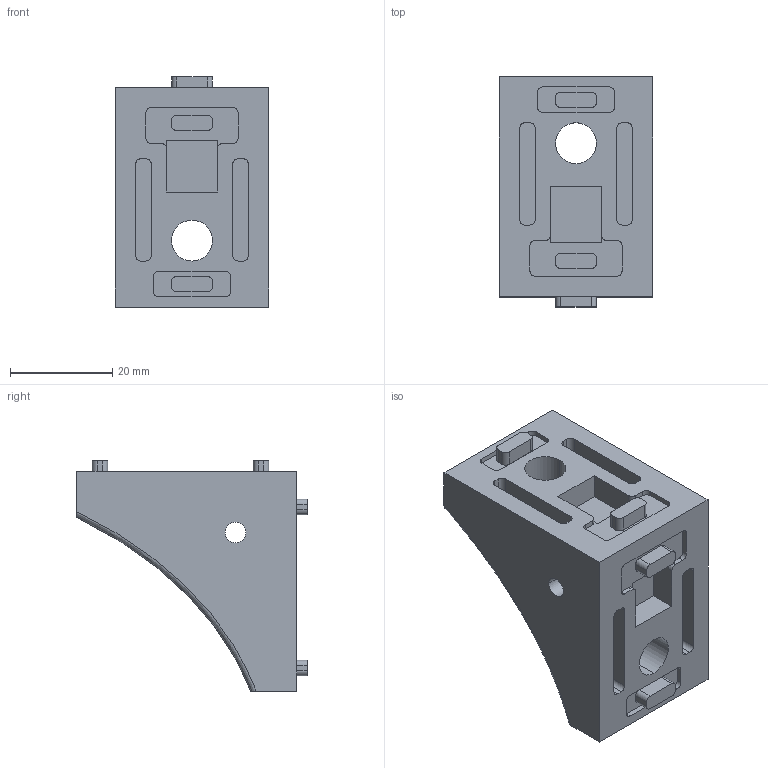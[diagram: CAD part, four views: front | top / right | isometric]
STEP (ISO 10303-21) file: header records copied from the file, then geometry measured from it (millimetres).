
FILE_DESCRIPTION (( 'STEP AP203' ), '1' );
FILE_NAME ('1032.STEP', '2016-03-27T14:34:30', ( '' ), ( '' ), 'SwSTEP 2.0', 'SolidWorks 2014', '' );
FILE_SCHEMA (( 'CONFIG_CONTROL_DESIGN' ));
Length unit declared in the file: millimetre
Products named in the file (1): 1032
Bounding box: 30 x 45 x 45 mm (x, y, z)
Volume: 20734.5 mm3; surface area: 10060.1 mm2
Topology: 1 solids, 1 shells, 150 faces, 404 edges, 268 vertices
Faces by surface type: plane 84, cylinder 60, bspline 6
Entity records: 5364 total; most frequent: CARTESIAN_POINT 1432, ORIENTED_EDGE 808, DIRECTION 798, EDGE_CURVE 404, VECTOR 268, LINE 268, VERTEX_POINT 268, AXIS2_PLACEMENT_3D 265
